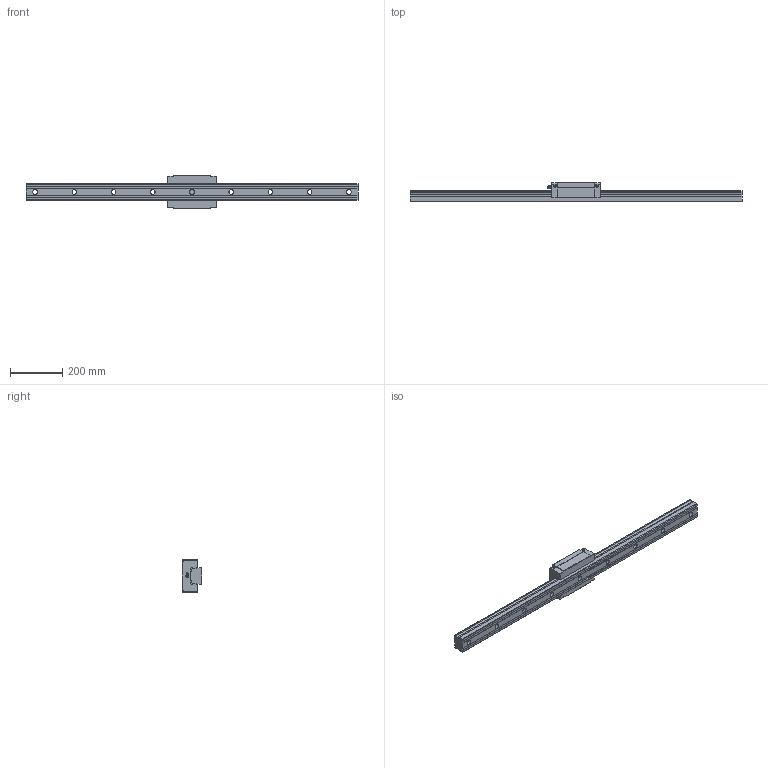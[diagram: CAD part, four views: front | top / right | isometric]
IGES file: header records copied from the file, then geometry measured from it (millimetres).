
Start section: Data from Parasolid IGES Translator 26.0.171, Copyright(c) 2006 Siemens PLM Software. All Rights Reserved.
Global section: file name: SVS65R1SS-1270L_G35_0_B-PT18_542_0_0_0_1.igs; native system: By Siemens PLM Incorporated; preprocessor: XPlus GENERIC/IGES 26.0.171; author: Noname; organization: Noname; date: 20240516.115328; units: millimetre
Bounding box: 1270 x 75 x 126 mm (x, y, z)
Surface area: 405155.6 mm2 (no closed solid volume)
Topology: 0 solids, 0 shells, 189 faces, 991 edges, 933 vertices
Faces by surface type: extrusion 102, revolution 87
